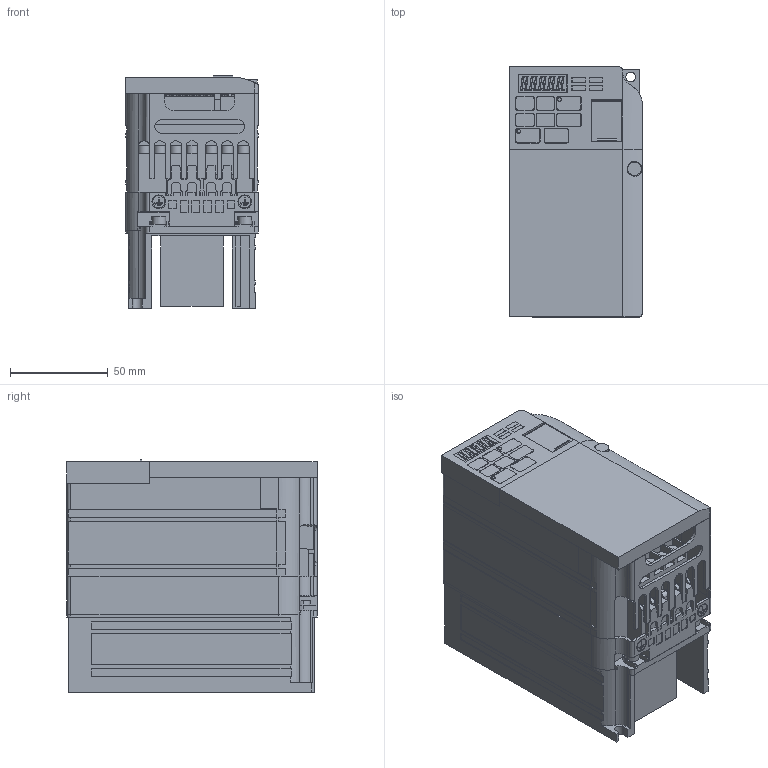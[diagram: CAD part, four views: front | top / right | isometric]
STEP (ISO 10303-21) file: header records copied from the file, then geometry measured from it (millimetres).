
FILE_DESCRIPTION((''),'2;1');
FILE_NAME('V1000_IP20_FRAME_C1_ASM','2010-07-20T',('jc'),('YASKAWA ELECTRIC CORCORATION'),'PRO/ENGINEER BY PARAMETRIC TECHNOLOGY CORPORATION, 2008490','PRO/ENGINEER BY PARAMETRIC TECHNOLOGY CORPORATION, 2008490','');
FILE_SCHEMA(('CONFIG_CONTROL_DESIGN'));
Length unit declared in the file: millimetre
Products named in the file (19): NONE-29923; BASE_CASE_A2________ANY_ASM; NONE-36883; ASM0045_ASM; NONE-49249; SHITA_COVER_A2________ANY_ASM; NONE-36293; ASM0046_ASM; NONE-76293; ASM0047_ASM; NONE-77840; ASM0048_ASM; NONE-35920; ASM0049_ASM; NONE-26727; ASM0050_ASM; CIMR_VZBA0003BAA_ANY_ASM; _BA0003B; V1000_IP20_FRAME_C1_ASM
Assembly tree (18 placements, depth 4):
  V1000_IP20_FRAME_C1_ASM
    CIMR_VZBA0003BAA_ANY_ASM
      BASE_CASE_A2________ANY_ASM
        NONE-29923
      ASM0045_ASM
        NONE-36883
      SHITA_COVER_A2________ANY_ASM
        NONE-49249
      ASM0046_ASM
        NONE-36293
      ASM0047_ASM
        NONE-76293
      ASM0048_ASM
        NONE-77840
      ASM0049_ASM
        NONE-35920
      ASM0050_ASM
        NONE-26727
    _BA0003B
Bounding box: 68 x 128 x 119 mm (x, y, z)
Volume: 679638.1 mm3; surface area: 165165.2 mm2
Topology: 8 solids, 8 shells, 1709 faces, 4656 edges, 3073 vertices
Faces by surface type: plane 1374, cylinder 335
Entity records: 54060 total; most frequent: CARTESIAN_POINT 9602, ORIENTED_EDGE 9312, DIRECTION 8931, EDGE_CURVE 4656, VECTOR 3881, LINE 3881, VERTEX_POINT 3073, AXIS2_PLACEMENT_3D 2525
